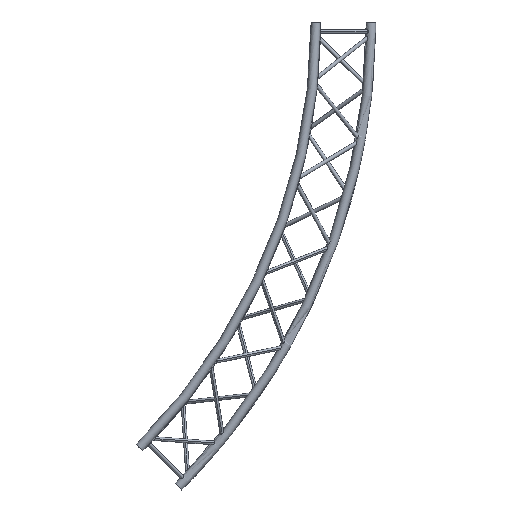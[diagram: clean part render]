
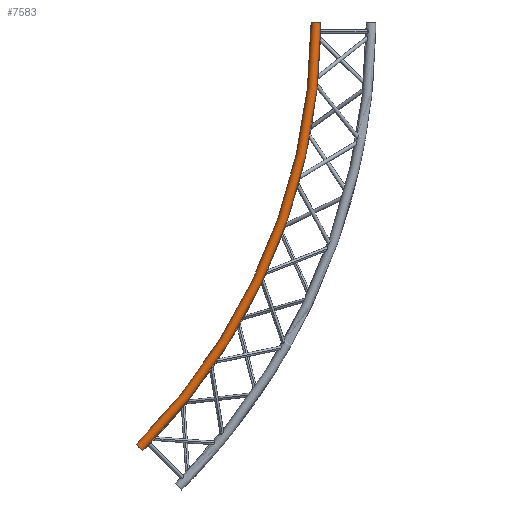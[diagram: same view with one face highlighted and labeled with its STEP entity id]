
A CAD part, front view. The second image highlights one B-rep face of the part: STEP entity #7583.
In plain terms, the highlighted toroidal (fillet/blend) face has major radius 3183.15 mm and minor radius 25 mm.
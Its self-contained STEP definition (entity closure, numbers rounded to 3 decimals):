
#3258 = CARTESIAN_POINT ( 'NONE',  ( 3158.149, -168.5, 0. ) ) ;
#3270 = CARTESIAN_POINT ( 'NONE',  ( 3208.149, -168.5, 0. ) ) ;
#3271 = DIRECTION ( 'NONE',  ( 1., 0., 0. ) ) ;
#3272 = DIRECTION ( 'NONE',  ( 0., 0., 1. ) ) ;
#3273 = CARTESIAN_POINT ( 'NONE',  ( 3183.149, -168.5, 0. ) ) ;
#3274 = AXIS2_PLACEMENT_3D ( 'NONE', #3273, #3272, #3271 ) ;
#3275 = CIRCLE ( 'NONE', #3274, 25. ) ;
#5051 = CARTESIAN_POINT ( 'NONE',  ( 2233.149, -168.5, -2233.149 ) ) ;
#5162 = CIRCLE ( 'NONE', #5183, 3158.149 ) ;
#5163 = DIRECTION ( 'NONE',  ( 0.707, 0., -0.707 ) ) ;
#5164 = DIRECTION ( 'NONE',  ( 0.707, 0., 0.707 ) ) ;
#5165 = CARTESIAN_POINT ( 'NONE',  ( 2250.827, -168.5, -2250.827 ) ) ;
#5166 = AXIS2_PLACEMENT_3D ( 'NONE', #5165, #5164, #5163 ) ;
#5167 = CIRCLE ( 'NONE', #5166, 25. ) ;
#5168 = DIRECTION ( 'NONE',  ( 0., 0., -1. ) ) ;
#5169 = DIRECTION ( 'NONE',  ( 0., -1., 0. ) ) ;
#5170 = CARTESIAN_POINT ( 'NONE',  ( 0., -168.5, 0. ) ) ;
#5171 = AXIS2_PLACEMENT_3D ( 'NONE', #5170, #5169, #5168 ) ;
#5172 = CIRCLE ( 'NONE', #5171, 3208.149 ) ;
#5179 = CARTESIAN_POINT ( 'NONE',  ( 2268.504, -168.5, -2268.504 ) ) ;
#5180 = DIRECTION ( 'NONE',  ( 0., 0., -1. ) ) ;
#5181 = DIRECTION ( 'NONE',  ( 0., -1., 0. ) ) ;
#5182 = CARTESIAN_POINT ( 'NONE',  ( 0., -168.5, 0. ) ) ;
#5183 = AXIS2_PLACEMENT_3D ( 'NONE', #5182, #5181, #5180 ) ;
#7171 = VERTEX_POINT ( 'NONE', #3258 ) ;
#7180 = EDGE_CURVE ( 'NONE', #7171, #7183, #3275, .T. ) ;
#7183 = VERTEX_POINT ( 'NONE', #3270 ) ;
#7196 = ORIENTED_EDGE ( 'NONE', *, *, #7571, .T. ) ;
#7567 = VERTEX_POINT ( 'NONE', #5051 ) ;
#7568 = ORIENTED_EDGE ( 'NONE', *, *, #7576, .F. ) ;
#7569 = ORIENTED_EDGE ( 'NONE', *, *, #7570, .T. ) ;
#7570 = EDGE_CURVE ( 'NONE', #7577, #7183, #5172, .T. ) ;
#7571 = EDGE_CURVE ( 'NONE', #7567, #7577, #5167, .T. ) ;
#7576 = EDGE_CURVE ( 'NONE', #7567, #7171, #5162, .T. ) ;
#7577 = VERTEX_POINT ( 'NONE', #5179 ) ;
#7578 = ORIENTED_EDGE ( 'NONE', *, *, #7180, .F. ) ;
#7583 = ADVANCED_FACE ( 'NONE', ( #8158 ), #7979, .T. ) ;
#7584 = EDGE_LOOP ( 'NONE', ( #7196, #7569, #7578, #7568 ) ) ;
#7975 = DIRECTION ( 'NONE',  ( 0., 0., -1. ) ) ;
#7976 = DIRECTION ( 'NONE',  ( 0., -1., 0. ) ) ;
#7977 = CARTESIAN_POINT ( 'NONE',  ( 0., -168.5, 0. ) ) ;
#7978 = AXIS2_PLACEMENT_3D ( 'NONE', #7977, #7976, #7975 ) ;
#7979 = TOROIDAL_SURFACE ( 'NONE', #7978, 3183.149, 25. ) ;
#8158 = FACE_OUTER_BOUND ( 'NONE', #7584, .T. ) ;
